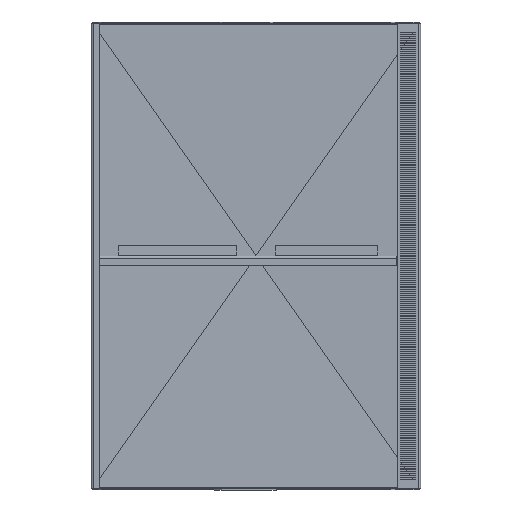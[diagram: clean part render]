
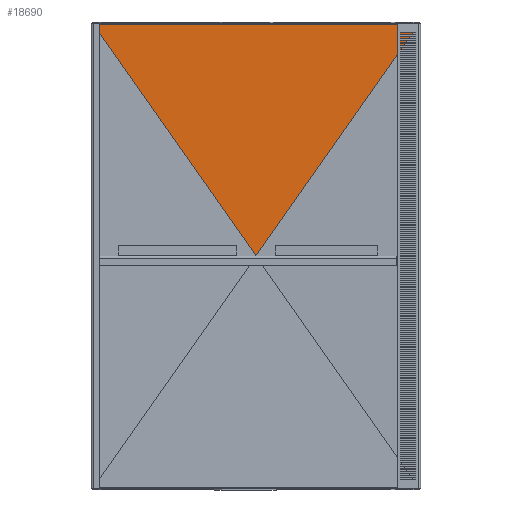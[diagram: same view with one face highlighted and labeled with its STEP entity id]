
A CAD part, front view. The second image highlights one B-rep face of the part: STEP entity #18690.
In plain terms, the highlighted planar face has unit normal (0, -1, -0.017) as drawn and (0.017, -1, 0) by its records, which use the part's own axes.
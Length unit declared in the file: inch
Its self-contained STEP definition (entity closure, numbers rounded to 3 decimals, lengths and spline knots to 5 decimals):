
#8 = CARTESIAN_POINT ( 'NONE',  ( -14.97575, -0.08, 0.13 ) ) ;
#12 = DIRECTION ( 'NONE',  ( 0., 0., 1. ) ) ;
#60 = DIRECTION ( 'NONE',  ( 0.819, 0.014, -0.574 ) ) ;
#66 = CARTESIAN_POINT ( 'NONE',  ( -14.97575, -0.08, 21.12 ) ) ;
#2814 = EDGE_CURVE ( 'NONE', #9677, #9684, #16078, .T. ) ;
#3037 = EDGE_CURVE ( 'NONE', #9684, #10131, #16055, .T. ) ;
#3041 = EDGE_CURVE ( 'NONE', #9677, #10131, #21166, .T. ) ;
#4499 = CARTESIAN_POINT ( 'NONE',  ( -0.00025, 0.17, 10.625 ) ) ;
#4503 = PLANE ( 'NONE',  #19807 ) ;
#4512 = DIRECTION ( 'NONE',  ( 1., 0.017, 0. ) ) ;
#4514 = DIRECTION ( 'NONE',  ( 0.017, -1., 0. ) ) ;
#4995 = DIRECTION ( 'NONE',  ( 0.819, 0.014, 0.574 ) ) ;
#5005 = CARTESIAN_POINT ( 'NONE',  ( -14.97575, -0.08, 0.13 ) ) ;
#8258 = EDGE_LOOP ( 'NONE', ( #18067, #18066, #18065 ) ) ;
#9677 = VERTEX_POINT ( 'NONE', #14878 ) ;
#9684 = VERTEX_POINT ( 'NONE', #14871 ) ;
#10131 = VERTEX_POINT ( 'NONE', #15245 ) ;
#11758 = FACE_OUTER_BOUND ( 'NONE', #8258, .T. ) ;
#14871 = CARTESIAN_POINT ( 'NONE',  ( -14.97575, -0.08, 21.12 ) ) ;
#14878 = CARTESIAN_POINT ( 'NONE',  ( -14.97575, -0.08, 0.13 ) ) ;
#15245 = CARTESIAN_POINT ( 'NONE',  ( -0.00025, 0.17, 10.625 ) ) ;
#16055 = LINE ( 'NONE', #66, #21157 ) ;
#16077 = VECTOR ( 'NONE', #12, 39.37008 ) ;
#16078 = LINE ( 'NONE', #8, #16077 ) ;
#18065 = ORIENTED_EDGE ( 'NONE', *, *, #2814, .F. ) ;
#18066 = ORIENTED_EDGE ( 'NONE', *, *, #3037, .F. ) ;
#18067 = ORIENTED_EDGE ( 'NONE', *, *, #3041, .T. ) ;
#18690 = ADVANCED_FACE ( 'NONE', ( #11758 ), #4503, .T. ) ;
#19807 = AXIS2_PLACEMENT_3D ( 'NONE', #4499, #4514, #4512 ) ;
#21157 = VECTOR ( 'NONE', #60, 39.37008 ) ;
#21163 = VECTOR ( 'NONE', #4995, 39.37008 ) ;
#21166 = LINE ( 'NONE', #5005, #21163 ) ;
